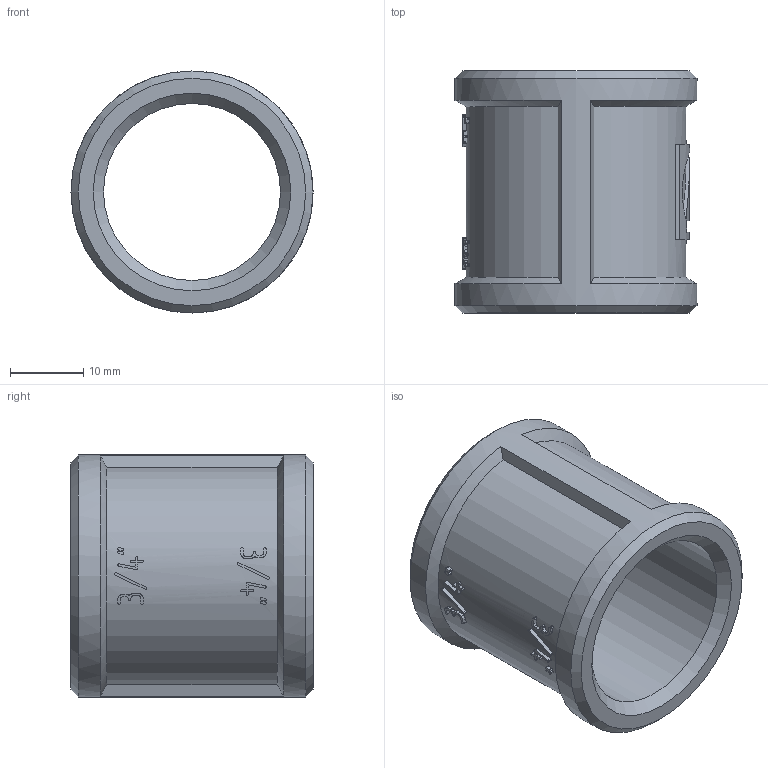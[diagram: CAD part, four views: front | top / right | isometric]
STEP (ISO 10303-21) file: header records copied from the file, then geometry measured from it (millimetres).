
FILE_DESCRIPTION(('STEP AP203'), '1');
FILE_NAME('ﾂﾐ.713461.002 - VTr.270.N.0005 ﾌ G3-4', '2024-06-27T12:53:48', ('Boss'), (''), 'C3D Converter', 'C3D Toolkit', '');
FILE_SCHEMA(('CONFIG_CONTROL_DESIGN'));
Length unit declared in the file: millimetre
Products named in the file (1): ВР.713461.002
Bounding box: 33 x 33 x 33 mm (x, y, z)
Volume: 9684.4 mm3; surface area: 6623 mm2
Topology: 1 solids, 1 shells, 254 faces, 710 edges, 472 vertices
Faces by surface type: extrusion 138, plane 90, cylinder 18, cone 8
Full cylindrical faces by diameter (mm): 24.118 x1, 33 x1
Entity records: 11140 total; most frequent: CARTESIAN_POINT 5322, ORIENTED_EDGE 1406, DIRECTION 779, EDGE_CURVE 703, VERTEX_POINT 472, B_SPLINE_CURVE_WITH_KNOTS 424, VECTOR 413, EDGE_LOOP 277
